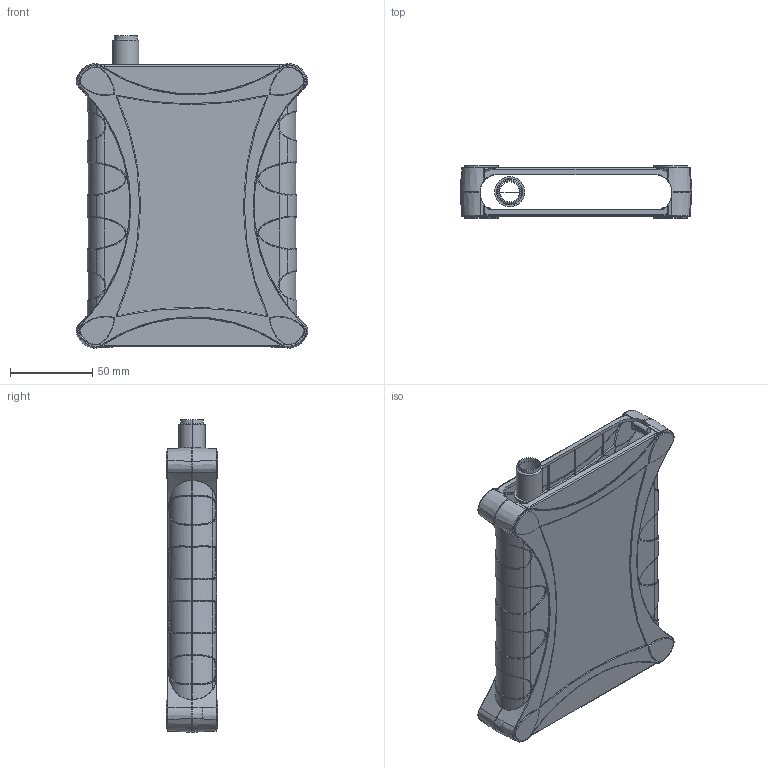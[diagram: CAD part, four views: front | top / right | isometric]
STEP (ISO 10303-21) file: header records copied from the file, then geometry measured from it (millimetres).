
FILE_DESCRIPTION (( 'STEP AP203' ), '1' );
FILE_NAME ('Replay_Boot.STEP', '2016-05-13T05:25:46', ( '' ), ( '' ), 'SwSTEP 2.0', 'SolidWorks 2014', '' );
FILE_SCHEMA (( 'CONFIG_CONTROL_DESIGN' ));
Length unit declared in the file: millimetre
Products named in the file (1): Replay_Boot
Bounding box: 140.97 x 31.65 x 190.3 mm (x, y, z)
Surface area: 91724.2 mm2 (no closed solid volume)
Topology: 0 solids, 27 shells, 1044 faces, 3833 edges, 2720 vertices
Faces by surface type: bspline 526, cylinder 230, plane 186, cone 102
Entity records: 81059 total; most frequent: CARTESIAN_POINT 55602, ORIENTED_EDGE 5800, EDGE_CURVE 3817, DIRECTION 3565, VERTEX_POINT 2720, B_SPLINE_CURVE_WITH_KNOTS 1872, AXIS2_PLACEMENT_3D 1399, EDGE_LOOP 1080
